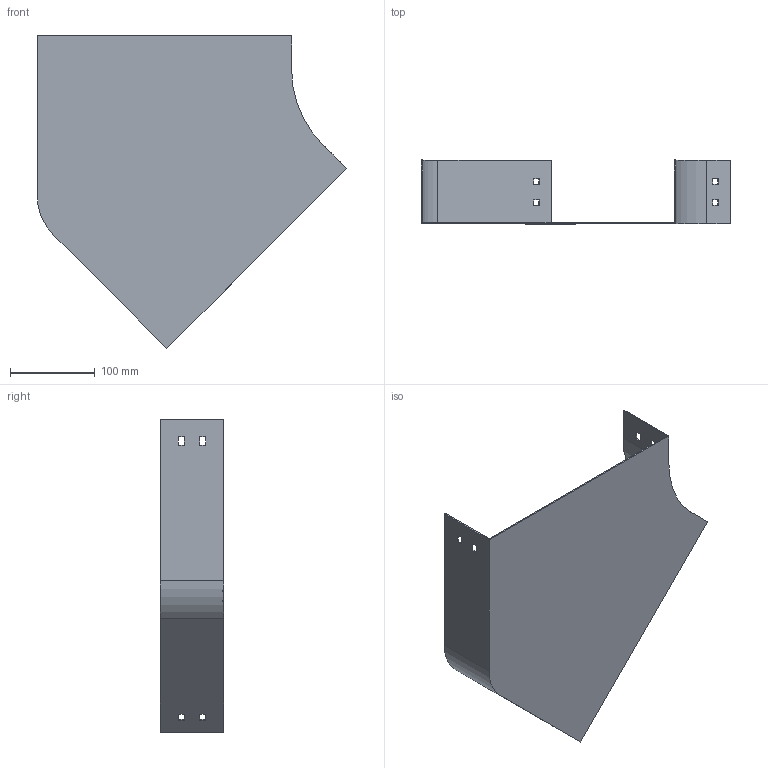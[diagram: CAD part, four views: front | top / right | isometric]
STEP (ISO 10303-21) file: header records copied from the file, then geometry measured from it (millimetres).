
FILE_DESCRIPTION (( 'STEP AP214' ), '1' );
FILE_NAME ('P4_307.step', '2025-07-16T09:19:25', ( '' ), ( '' ), 'SwSTEP 2.0', 'SolidWorks 2023', '' );
FILE_SCHEMA (( 'AUTOMOTIVE_DESIGN' ));
Length unit declared in the file: millimetre
Products named in the file (1): P4_307
Bounding box: 364.9 x 75 x 368.8 mm (x, y, z)
Volume: 205040.3 mm3; surface area: 276047.4 mm2
Topology: 1 solids, 1 shells, 50 faces, 144 edges, 96 vertices
Faces by surface type: plane 46, cylinder 4
Entity records: 1671 total; most frequent: CARTESIAN_POINT 291, ORIENTED_EDGE 288, DIRECTION 254, EDGE_CURVE 144, LINE 136, VECTOR 136, VERTEX_POINT 96, EDGE_LOOP 66
